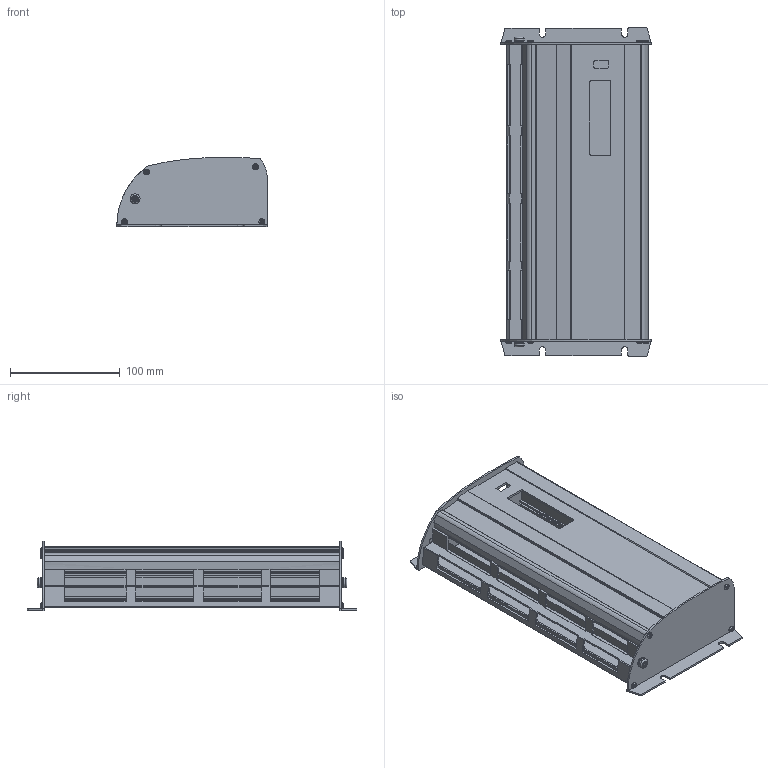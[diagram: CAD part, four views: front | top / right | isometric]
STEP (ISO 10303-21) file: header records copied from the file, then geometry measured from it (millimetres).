
FILE_DESCRIPTION(('FreeCAD Model'),'2;1');
FILE_NAME('C:/Users/rudy.gunawan/Documents/This PC/dataTaker/Support Files/3D CAD/DT85.stp','2018-03-05T12:21:33',('Author'),(''), 'Open CASCADE STEP processor 6.8','FreeCAD','Unknown');
FILE_SCHEMA(('AUTOMOTIVE_DESIGN_CC2 { 1 2 10303 214 -1 1 5 4 }'));
Products named in the file (1): Fusion
Bounding box: 136.69 x 299.99 x 62.79 mm (x, y, z)
Volume: 181484.2 mm3; surface area: 240597.4 mm2
Topology: 7 solids, 7 shells, 697 faces, 1893 edges, 1218 vertices
Faces by surface type: plane 512, cylinder 165, torus 20
Full cylindrical faces by diameter (mm): 0.8 x1, 2.4 x8, 2.5 x8, 3.9 x2, 4 x2, 5.4 x6, 8.8 x2, 9 x2
Entity records: 47425 total; most frequent: CARTESIAN_POINT 11025, DIRECTION 6311, LINE 3879, VECTOR 3879, ORIENTED_EDGE 3786, PCURVE 3786, DEFINITIONAL_REPRESENTATION 3786, EDGE_CURVE 1893
